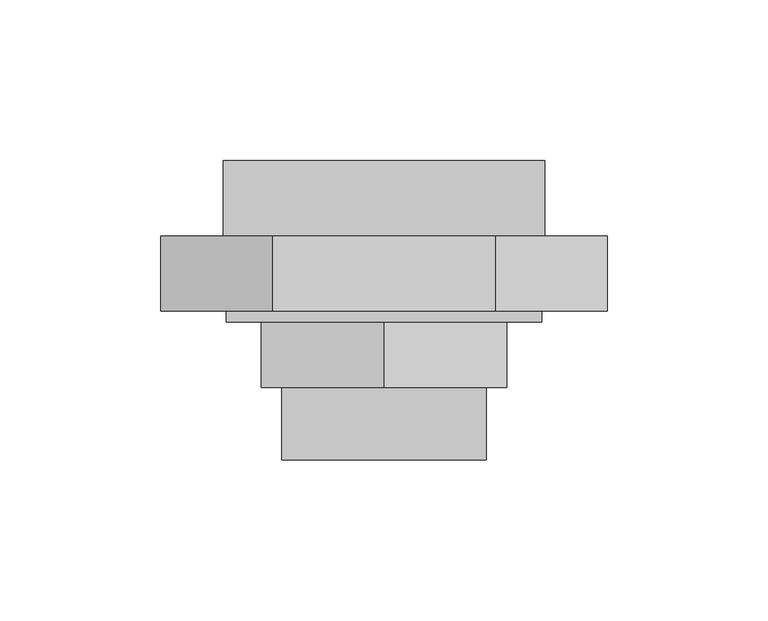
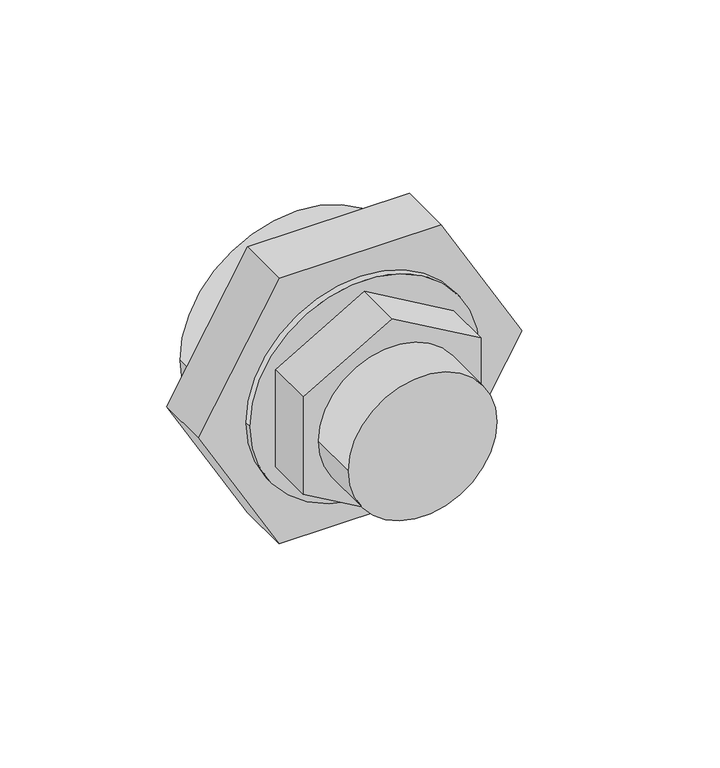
"""IFC4 building model written with IfcOpenShell, lengths in millimetres: pipe fitting geometry, EGB_VASEN_ PPR_Enlace desmontable rosca macho WXR103 : Enlace desmontable rosca macho WXR103."""

from ifc_helpers import new_model, si_unit, point, frame, origin, origin_2d, place, context, project, spatial, polyline, circle_curve, trimmed, segment, composite_curve, outline, extrude, source, transform, mapped, element, save


def pipe_fitting_4505df21(model_context):
    return source(origin(), model_context, "Body", "SweptSolid", [
        extrude(outline(polyline([(-21.9970453, -38.1), (-43.9940905, 0.0), (-21.9970453, 38.1), (21.9970453, 38.1), (43.9940905, 0.0), (21.9970453, -38.1), (-21.9970453, -38.1)])), frame((0.0, -46.42125, 0.0), z_axis=(0.0, 1.0, 0.0), x_axis=(0.0, 0.0, 1.0)), (0.0, 0.0, 1.0), 20.3333333),
        extrude(outline(polyline([(0.0, 69.2820323), (60.0, 34.6410162), (60.0, -34.6410162), (0.0, -69.2820323), (-60.0, -34.6410162), (-60.0, 34.6410162), (0.0, 69.2820323)])), frame((0.0, -22.7204167, 0.0), z_axis=(0.0, 1.0, 0.0), x_axis=(0.0, 0.0, 1.0)), (0.0, 0.0, 1.0), 23.3333333),
        extrude(outline(composite_curve([segment(trimmed(circle_curve(origin_2d(), 31.75), [point((0.0, -31.75))], [point((0.0, 31.75))], False, "CARTESIAN"), True, "CONTINUOUS"), segment(trimmed(circle_curve(origin_2d(), 31.75), [point((0.0, 31.75))], [point((0.0, -31.75))], False, "CARTESIAN"), True, "CONTINUOUS")], self_intersect=False)), frame((0.0, -69.05375, 0.0), z_axis=(0.0, 1.0, 0.0), x_axis=(0.0, 0.0, 1.0)), (0.0, 0.0, 1.0), 23.0),
        extrude(outline(composite_curve([segment(trimmed(circle_curve(origin_2d(), 49.05), [point((0.0, -49.05))], [point((0.0, 49.05))], False, "CARTESIAN"), True, "CONTINUOUS"), segment(trimmed(circle_curve(origin_2d(), 49.05), [point((0.0, 49.05))], [point((0.0, -49.05))], False, "CARTESIAN"), True, "CONTINUOUS")], self_intersect=False)), frame((0.0, -26.0879167, 0.0), z_axis=(0.0, 1.0, 0.0), x_axis=(0.0, 0.0, 1.0)), (0.0, 0.0, 1.0), 3.3675),
        extrude(outline(composite_curve([segment(trimmed(circle_curve(origin_2d(), 50.0), [point((0.0, -50.0))], [point((0.0, 50.0))], False, "CARTESIAN"), True, "CONTINUOUS"), segment(trimmed(circle_curve(origin_2d(), 50.0), [point((0.0, 50.0))], [point((0.0, -50.0))], False, "CARTESIAN"), True, "CONTINUOUS")], self_intersect=False), holes=[composite_curve([segment(trimmed(circle_curve(origin_2d(), 37.5), [point((0.0, -37.5))], [point((0.0, 37.5))], True, "CARTESIAN"), True, "CONTINUOUS"), segment(trimmed(circle_curve(origin_2d(), 37.5), [point((0.0, 37.5))], [point((0.0, -37.5))], True, "CARTESIAN"), True, "CONTINUOUS")], self_intersect=False)]), frame((0.0, 0.6129167, 0.0), z_axis=(0.0, 1.0, 0.0), x_axis=(0.0, 0.0, 1.0)), (0.0, 0.0, 1.0), 23.3333333),
    ])


if __name__ == "__main__":
    model = new_model("IFC4")
    model_context = context("Model", 3, world=origin())
    ifc_project = project(units=[si_unit("LENGTHUNIT", "METRE", prefix="MILLI")], contexts=[model_context])
    site = spatial("IfcSite", under=ifc_project)
    building = spatial("IfcBuilding", under=site)
    placement = place(None, origin())
    pipe_fitting_shape = pipe_fitting_4505df21(model_context)
    element("IfcPipeFitting", 1, ObjectType="EGB_VASEN_ PPR_Enlace desmontable rosca macho WXR103 : Enlace desmontable rosca macho WXR103", at=placement, inside=building, context=model_context, shape_type="MappedRepresentation", body=[
        mapped(pipe_fitting_shape, transform((0.0, 0.0, 0.0), x_axis=(1.0, 0.0, 0.0), y_axis=(0.0, 1.0, 0.0), z_axis=(0.0, 0.0, 1.0))),
    ])
    save(model, "model.ifc")
